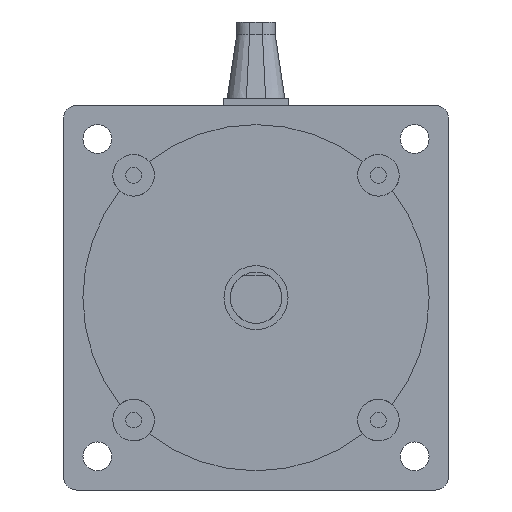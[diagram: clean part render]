
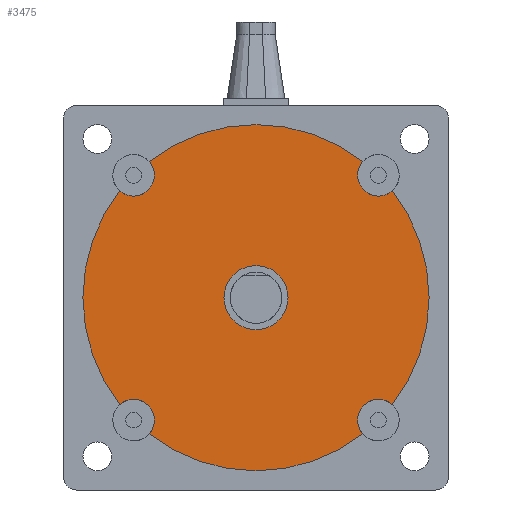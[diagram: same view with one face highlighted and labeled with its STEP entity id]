
A CAD part, front view. The second image highlights one B-rep face of the part: STEP entity #3475.
In plain terms, the highlighted planar face has unit normal (0, -1, 0).
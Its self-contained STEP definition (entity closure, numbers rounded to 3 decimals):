
#99=CIRCLE('',#3647,27.);
#102=CIRCLE('',#3651,27.);
#103=CIRCLE('',#3653,27.);
#121=CIRCLE('',#3677,27.);
#122=CIRCLE('',#3679,5.);
#123=CIRCLE('',#3680,3.25);
#124=CIRCLE('',#3681,3.25);
#125=CIRCLE('',#3682,3.25);
#126=CIRCLE('',#3683,3.25);
#330=ORIENTED_EDGE('',*,*,#988,.T.);
#331=ORIENTED_EDGE('',*,*,#955,.F.);
#332=ORIENTED_EDGE('',*,*,#989,.T.);
#333=ORIENTED_EDGE('',*,*,#987,.F.);
#334=ORIENTED_EDGE('',*,*,#990,.T.);
#335=ORIENTED_EDGE('',*,*,#953,.F.);
#336=ORIENTED_EDGE('',*,*,#991,.T.);
#337=ORIENTED_EDGE('',*,*,#947,.F.);
#338=ORIENTED_EDGE('',*,*,#992,.T.);
#947=EDGE_CURVE('',#1280,#1282,#99,.T.);
#953=EDGE_CURVE('',#1287,#1285,#102,.T.);
#955=EDGE_CURVE('',#1288,#1290,#103,.T.);
#987=EDGE_CURVE('',#1308,#1307,#121,.T.);
#988=EDGE_CURVE('',#1309,#1309,#122,.T.);
#989=EDGE_CURVE('',#1288,#1307,#123,.T.);
#990=EDGE_CURVE('',#1308,#1285,#124,.T.);
#991=EDGE_CURVE('',#1287,#1282,#125,.T.);
#992=EDGE_CURVE('',#1280,#1290,#126,.T.);
#1280=VERTEX_POINT('',#4743);
#1282=VERTEX_POINT('',#4746);
#1285=VERTEX_POINT('',#4753);
#1287=VERTEX_POINT('',#4757);
#1288=VERTEX_POINT('',#4761);
#1290=VERTEX_POINT('',#4764);
#1307=VERTEX_POINT('',#4817);
#1308=VERTEX_POINT('',#4819);
#1309=VERTEX_POINT('',#4823);
#1936=EDGE_LOOP('',(#330));
#1937=EDGE_LOOP('',(#331,#332,#333,#334,#335,#336,#337,#338));
#2150=FACE_BOUND('',#1936,.T.);
#2151=FACE_BOUND('',#1937,.T.);
#2342=PLANE('',#3678);
#3475=ADVANCED_FACE('',(#2150,#2151),#2342,.F.);
#3647=AXIS2_PLACEMENT_3D('',#4745,#3945,#3946);
#3651=AXIS2_PLACEMENT_3D('',#4758,#3956,#3957);
#3653=AXIS2_PLACEMENT_3D('',#4763,#3961,#3962);
#3677=AXIS2_PLACEMENT_3D('',#4820,#4023,#4024);
#3678=AXIS2_PLACEMENT_3D('',#4821,#4025,#4026);
#3679=AXIS2_PLACEMENT_3D('',#4822,#4027,#4028);
#3680=AXIS2_PLACEMENT_3D('',#4824,#4029,#4030);
#3681=AXIS2_PLACEMENT_3D('',#4825,#4031,#4032);
#3682=AXIS2_PLACEMENT_3D('',#4826,#4033,#4034);
#3683=AXIS2_PLACEMENT_3D('',#4827,#4035,#4036);
#3945=DIRECTION('',(0.,1.,0.));
#3946=DIRECTION('',(1.,0.,0.));
#3956=DIRECTION('',(0.,1.,0.));
#3957=DIRECTION('',(1.,0.,0.));
#3961=DIRECTION('',(0.,1.,0.));
#3962=DIRECTION('',(1.,0.,0.));
#4023=DIRECTION('',(0.,1.,0.));
#4024=DIRECTION('',(1.,0.,0.));
#4025=DIRECTION('',(0.,1.,0.));
#4026=DIRECTION('',(0.,0.,1.));
#4027=DIRECTION('',(0.,1.,0.));
#4028=DIRECTION('',(1.,0.,0.));
#4029=DIRECTION('',(0.,1.,0.));
#4030=DIRECTION('',(0.,0.,-1.));
#4031=DIRECTION('',(0.,1.,0.));
#4032=DIRECTION('',(0.,0.,-1.));
#4033=DIRECTION('',(0.,1.,0.));
#4034=DIRECTION('',(0.,0.,-1.));
#4035=DIRECTION('',(0.,1.,0.));
#4036=DIRECTION('',(0.,0.,-1.));
#4743=CARTESIAN_POINT('',(16.66,-8.,-21.248));
#4745=CARTESIAN_POINT('',(0.,-8.,0.));
#4746=CARTESIAN_POINT('',(-16.66,-8.,-21.248));
#4753=CARTESIAN_POINT('',(-21.248,-8.,16.66));
#4757=CARTESIAN_POINT('',(-21.248,-8.,-16.66));
#4758=CARTESIAN_POINT('',(0.,-8.,0.));
#4761=CARTESIAN_POINT('',(21.248,-8.,16.66));
#4763=CARTESIAN_POINT('',(0.,-8.,0.));
#4764=CARTESIAN_POINT('',(21.248,-8.,-16.66));
#4817=CARTESIAN_POINT('',(16.66,-8.,21.248));
#4819=CARTESIAN_POINT('',(-16.66,-8.,21.248));
#4820=CARTESIAN_POINT('',(0.,-8.,0.));
#4821=CARTESIAN_POINT('',(0.,-8.,0.));
#4822=CARTESIAN_POINT('',(0.,-8.,0.));
#4823=CARTESIAN_POINT('',(5.,-8.,0.));
#4824=CARTESIAN_POINT('',(19.092,-8.,19.092));
#4825=CARTESIAN_POINT('',(-19.092,-8.,19.092));
#4826=CARTESIAN_POINT('',(-19.092,-8.,-19.092));
#4827=CARTESIAN_POINT('',(19.092,-8.,-19.092));
